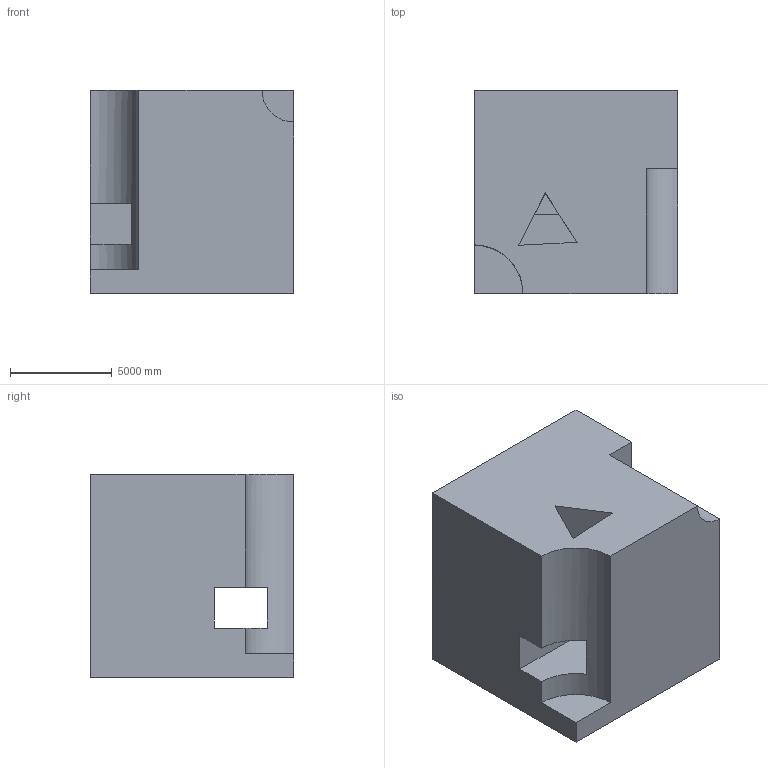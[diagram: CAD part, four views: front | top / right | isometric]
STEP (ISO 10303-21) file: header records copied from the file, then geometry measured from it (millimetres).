
FILE_DESCRIPTION (( 'STEP AP203' ), '1' );
FILE_NAME ('581.STEP', '2022-07-29T11:55:45', ( 'user' ), ( '' ), 'SwSTEP 2.0', 'SolidWorks 2021', '' );
FILE_SCHEMA (( 'CONFIG_CONTROL_DESIGN' ));
Length unit declared in the file: centimetre
Products named in the file (1): 581
Bounding box: 10000 x 10000 x 10000 mm (x, y, z)
Volume: 844372700235.2 mm3; surface area: 782687031.1 mm2
Topology: 1 solids, 1 shells, 32 faces, 102 edges, 68 vertices
Faces by surface type: plane 30, cylinder 2
Entity records: 1205 total; most frequent: ORIENTED_EDGE 204, CARTESIAN_POINT 203, DIRECTION 174, EDGE_CURVE 102, VECTOR 96, LINE 96, VERTEX_POINT 68, AXIS2_PLACEMENT_3D 39
